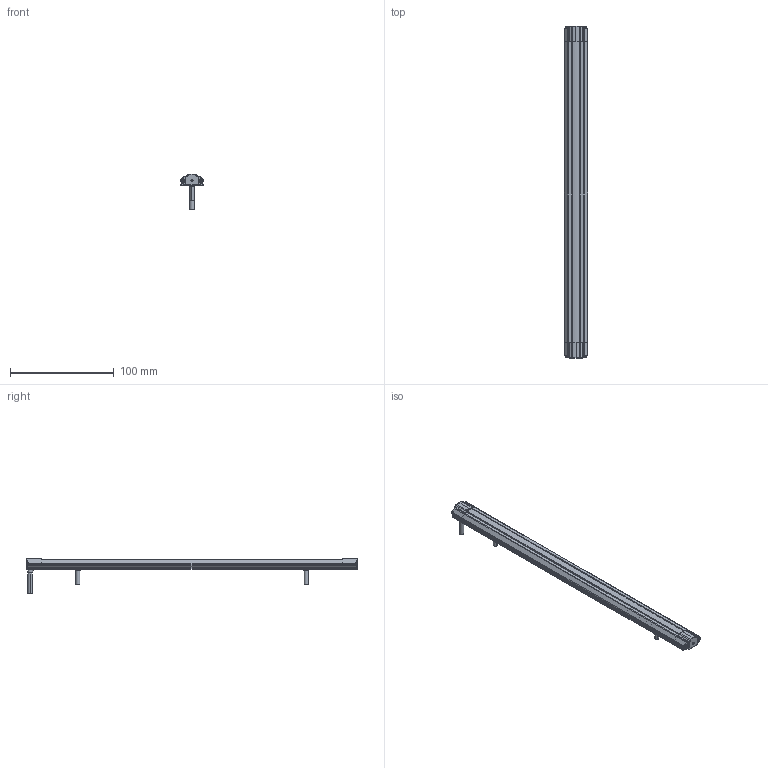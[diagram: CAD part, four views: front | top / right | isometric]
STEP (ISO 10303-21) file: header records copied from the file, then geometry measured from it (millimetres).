
FILE_DESCRIPTION (( 'STEP AP214' ), '1' );
FILE_NAME ('ILGA-B-K1a-0320mm.STEP', '2026-04-24T22:51:57', ( '' ), ( '' ), 'SwSTEP 2.0', 'SolidWorks 2025', '' );
FILE_SCHEMA (( 'AUTOMOTIVE_DESIGN' ));
Length unit declared in the file: millimetre
Products named in the file (1): ILGA-B-K1a-0320mm
Bounding box: 22.4 x 320 x 34.2 mm (x, y, z)
Volume: 26880.6 mm3; surface area: 45191 mm2
Topology: 11 solids, 11 shells, 710 faces, 1834 edges, 1122 vertices
Faces by surface type: plane 308, cylinder 262, cone 56, torus 44, bspline 24, sphere 16
Entity records: 29731 total; most frequent: CARTESIAN_POINT 4567, DIRECTION 3758, ORIENTED_EDGE 3580, EDGE_CURVE 1790, AXIS2_PLACEMENT_3D 1401, VERTEX_POINT 1122, VECTOR 956, LINE 956
